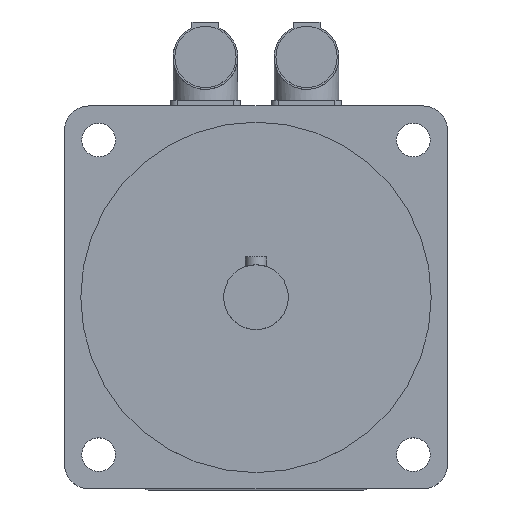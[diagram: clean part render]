
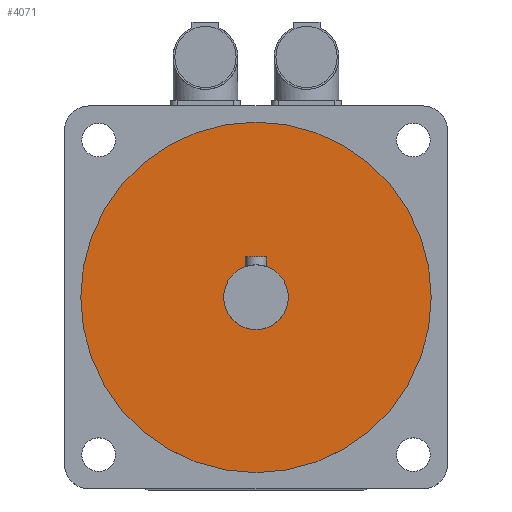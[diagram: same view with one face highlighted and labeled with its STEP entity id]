
A CAD part, top view. The second image highlights one B-rep face of the part: STEP entity #4071.
In plain terms, the highlighted planar face has unit normal (0, 0, 1).
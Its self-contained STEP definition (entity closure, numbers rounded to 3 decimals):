
#28=FACE_BOUND('',#533,.T.);
#79=PLANE('',#4432);
#278=FACE_OUTER_BOUND('',#532,.T.);
#532=EDGE_LOOP('',(#2985));
#533=EDGE_LOOP('',(#2986));
#1517=CIRCLE('',#4427,12.);
#1518=CIRCLE('',#4430,65.);
#1774=VERTEX_POINT('',#6532);
#1775=VERTEX_POINT('',#6536);
#2232=EDGE_CURVE('',#1774,#1774,#1517,.T.);
#2233=EDGE_CURVE('',#1775,#1775,#1518,.T.);
#2985=ORIENTED_EDGE('',*,*,#2233,.T.);
#2986=ORIENTED_EDGE('',*,*,#2232,.T.);
#4071=ADVANCED_FACE('',(#278,#28),#79,.F.);
#4427=AXIS2_PLACEMENT_3D('',#6533,#5205,#5206);
#4430=AXIS2_PLACEMENT_3D('',#6537,#5211,#5212);
#4432=AXIS2_PLACEMENT_3D('',#6540,#5215,#5216);
#5205=DIRECTION('center_axis',(0.,0.,
-1.));
#5206=DIRECTION('ref_axis',(-1.,0.,0.));
#5211=DIRECTION('center_axis',(0.,0.,
1.));
#5212=DIRECTION('ref_axis',(-1.,0.,0.));
#5215=DIRECTION('center_axis',(0.,0.,
-1.));
#5216=DIRECTION('ref_axis',(-1.,0.,0.));
#6532=CARTESIAN_POINT('',(12.,0.,231.5));
#6533=CARTESIAN_POINT('Origin',(0.,0.,
231.5));
#6536=CARTESIAN_POINT('',(65.,0.,231.5));
#6537=CARTESIAN_POINT('Origin',(0.,0.,
231.5));
#6540=CARTESIAN_POINT('Origin',(0.,0.,
231.5));
